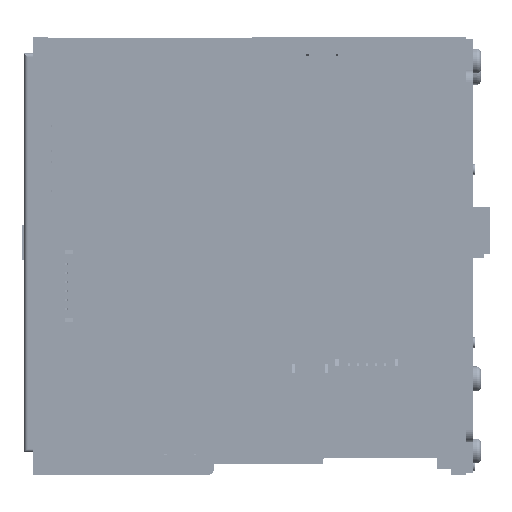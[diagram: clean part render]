
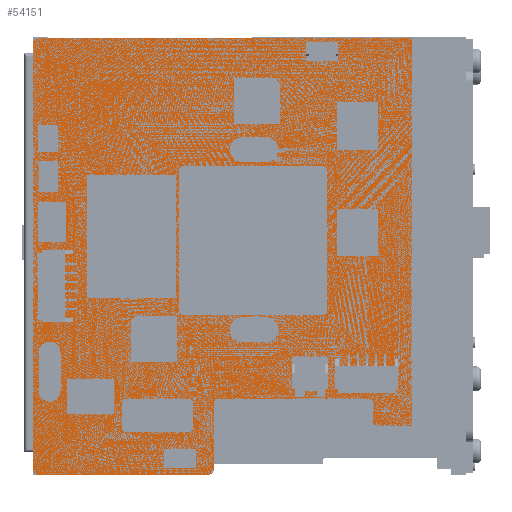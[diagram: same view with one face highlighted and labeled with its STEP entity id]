
A CAD part, left-side view. The second image highlights one B-rep face of the part: STEP entity #54151.
In plain terms, the highlighted planar face has unit normal (-1, 0, 0) as drawn and (0, 0, -1) by its records, which use the part's own axes.
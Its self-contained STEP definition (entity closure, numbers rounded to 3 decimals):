
#53536=DIRECTION('',(1.,0.,0.));
#53537=VECTOR('',#53536,31.);
#53538=CARTESIAN_POINT('',(-19.,-19.,0.));
#53539=LINE('',#53538,#53537);
#53540=DIRECTION('',(0.,-1.,0.));
#53541=VECTOR('',#53540,31.);
#53542=CARTESIAN_POINT('',(-20.,13.,0.));
#53543=LINE('',#53542,#53541);
#53544=DIRECTION('',(-1.,0.,0.));
#53545=VECTOR('',#53544,31.);
#53546=CARTESIAN_POINT('',(12.,14.,0.));
#53547=LINE('',#53546,#53545);
#53548=DIRECTION('',(0.,1.,0.));
#53549=VECTOR('',#53548,31.);
#53550=CARTESIAN_POINT('',(13.,-18.,0.));
#53551=LINE('',#53550,#53549);
#53552=DIRECTION('',(-1.,0.,0.));
#53553=VECTOR('',#53552,5.2);
#53554=CARTESIAN_POINT('',(37.85,10.72,0.));
#53555=LINE('',#53554,#53553);
#53556=DIRECTION('',(0.,1.,0.));
#53557=VECTOR('',#53556,13.915);
#53558=CARTESIAN_POINT('',(31.65,11.72,0.));
#53559=LINE('',#53558,#53557);
#53560=DIRECTION('',(1.,0.,0.));
#53561=VECTOR('',#53560,5.2);
#53562=CARTESIAN_POINT('',(32.65,26.635,0.));
#53563=LINE('',#53562,#53561);
#53564=DIRECTION('',(0.,-1.,0.));
#53565=VECTOR('',#53564,13.915);
#53566=CARTESIAN_POINT('',(38.85,25.635,0.));
#53567=LINE('',#53566,#53565);
#53568=CARTESIAN_POINT('',(47.4,45.25,0.));
#53569=DIRECTION('',(0.,0.,-1.));
#53570=DIRECTION('',(0.,1.,0.));
#53571=AXIS2_PLACEMENT_3D('',#53568,#53569,#53570);
#53573=DIRECTION('',(-1.,0.,0.));
#53574=VECTOR('',#53573,94.8);
#53575=CARTESIAN_POINT('',(47.4,46.25,0.));
#53576=LINE('',#53575,#53574);
#53577=CARTESIAN_POINT('',(-47.4,45.25,0.));
#53578=DIRECTION('',(0.,0.,-1.));
#53579=DIRECTION('',(-1.,0.,0.));
#53580=AXIS2_PLACEMENT_3D('',#53577,#53578,#53579);
#53582=DIRECTION('',(0.,-1.,0.));
#53583=VECTOR('',#53582,83.);
#53584=CARTESIAN_POINT('',(-48.4,45.25,0.));
#53585=LINE('',#53584,#53583);
#53586=DIRECTION('',(1.,0.,0.));
#53587=VECTOR('',#53586,9.75);
#53588=CARTESIAN_POINT('',(-48.4,-37.75,0.));
#53589=LINE('',#53588,#53587);
#53590=DIRECTION('',(0.,1.,0.));
#53591=VECTOR('',#53590,7.5);
#53592=CARTESIAN_POINT('',(-37.65,-46.25,0.));
#53593=LINE('',#53592,#53591);
#53594=DIRECTION('',(1.,0.,0.));
#53595=VECTOR('',#53594,75.3);
#53596=CARTESIAN_POINT('',(-37.65,-46.25,0.));
#53597=LINE('',#53596,#53595);
#53598=DIRECTION('',(-1.,0.,0.));
#53599=VECTOR('',#53598,5.);
#53600=CARTESIAN_POINT('',(37.65,-29.18,0.));
#53601=LINE('',#53600,#53599);
#53602=DIRECTION('',(0.,1.,0.));
#53603=VECTOR('',#53602,33.4);
#53604=CARTESIAN_POINT('',(31.65,-28.18,0.));
#53605=LINE('',#53604,#53603);
#53606=DIRECTION('',(-1.,0.,0.));
#53607=VECTOR('',#53606,14.75);
#53608=CARTESIAN_POINT('',(47.4,6.22,0.));
#53609=LINE('',#53608,#53607);
#53610=CARTESIAN_POINT('',(47.4,7.22,0.));
#53611=DIRECTION('',(0.,0.,-1.));
#53612=DIRECTION('',(1.,0.,0.));
#53613=AXIS2_PLACEMENT_3D('',#53610,#53611,#53612);
#53615=DIRECTION('',(0.,1.,0.));
#53616=VECTOR('',#53615,38.03);
#53617=CARTESIAN_POINT('',(48.4,7.22,0.));
#53618=LINE('',#53617,#53616);
#53632=CARTESIAN_POINT('',(-19.,-18.,0.));
#53633=DIRECTION('',(0.,0.,1.));
#53634=DIRECTION('',(-1.,0.,0.));
#53635=AXIS2_PLACEMENT_3D('',#53632,#53633,#53634);
#53733=CARTESIAN_POINT('',(-19.,13.,0.));
#53734=DIRECTION('',(0.,0.,1.));
#53735=DIRECTION('',(0.,1.,0.));
#53736=AXIS2_PLACEMENT_3D('',#53733,#53734,#53735);
#53751=CARTESIAN_POINT('',(12.,13.,0.));
#53752=DIRECTION('',(0.,0.,1.));
#53753=DIRECTION('',(1.,0.,0.));
#53754=AXIS2_PLACEMENT_3D('',#53751,#53752,#53753);
#53769=CARTESIAN_POINT('',(12.,-18.,0.));
#53770=DIRECTION('',(0.,0.,1.));
#53771=DIRECTION('',(0.,-1.,0.));
#53772=AXIS2_PLACEMENT_3D('',#53769,#53770,#53771);
#53782=CARTESIAN_POINT('',(32.65,11.72,0.));
#53783=DIRECTION('',(0.,0.,1.));
#53784=DIRECTION('',(-1.,0.,0.));
#53785=AXIS2_PLACEMENT_3D('',#53782,#53783,#53784);
#53800=CARTESIAN_POINT('',(37.85,11.72,0.));
#53801=DIRECTION('',(0.,0.,1.));
#53802=DIRECTION('',(0.,-1.,0.));
#53803=AXIS2_PLACEMENT_3D('',#53800,#53801,#53802);
#53818=CARTESIAN_POINT('',(37.85,25.635,0.));
#53819=DIRECTION('',(0.,0.,1.));
#53820=DIRECTION('',(1.,0.,0.));
#53821=AXIS2_PLACEMENT_3D('',#53818,#53819,#53820);
#53836=CARTESIAN_POINT('',(32.65,25.635,0.));
#53837=DIRECTION('',(0.,0.,1.));
#53838=DIRECTION('',(0.,1.,0.));
#53839=AXIS2_PLACEMENT_3D('',#53836,#53837,#53838);
#53862=CARTESIAN_POINT('',(32.65,5.22,0.));
#53863=DIRECTION('',(0.,0.,1.));
#53864=DIRECTION('',(0.,1.,0.));
#53865=AXIS2_PLACEMENT_3D('',#53862,#53863,#53864);
#53880=CARTESIAN_POINT('',(32.65,-28.18,0.));
#53881=DIRECTION('',(0.,0.,1.));
#53882=DIRECTION('',(-1.,0.,0.));
#53883=AXIS2_PLACEMENT_3D('',#53880,#53881,#53882);
#53898=DIRECTION('',(0.,-1.,0.));
#53899=VECTOR('',#53898,17.07);
#53900=CARTESIAN_POINT('',(37.65,-29.18,0.));
#53901=LINE('',#53900,#53899);
#53923=CARTESIAN_POINT('',(-38.65,-38.75,0.));
#53924=DIRECTION('',(0.,0.,1.));
#53925=DIRECTION('',(1.,0.,0.));
#53926=AXIS2_PLACEMENT_3D('',#53923,#53924,#53925);
#53948=CARTESIAN_POINT('',(-48.4,-37.75,0.));
#53950=VERTEX_POINT('',#53948);
#53952=CARTESIAN_POINT('',(-37.65,-46.25,0.));
#53954=VERTEX_POINT('',#53952);
#53956=CARTESIAN_POINT('',(37.65,-46.25,0.));
#53958=VERTEX_POINT('',#53956);
#53960=CARTESIAN_POINT('',(37.65,-29.18,0.));
#53962=VERTEX_POINT('',#53960);
#53965=CARTESIAN_POINT('',(-38.65,-37.75,0.));
#53967=VERTEX_POINT('',#53965);
#53969=CARTESIAN_POINT('',(-37.65,-38.75,0.));
#53971=VERTEX_POINT('',#53969);
#53973=CARTESIAN_POINT('',(-19.,-19.,0.));
#53975=VERTEX_POINT('',#53973);
#53977=CARTESIAN_POINT('',(-20.,-18.,0.));
#53979=VERTEX_POINT('',#53977);
#53981=CARTESIAN_POINT('',(-20.,13.,0.));
#53983=VERTEX_POINT('',#53981);
#53985=CARTESIAN_POINT('',(-19.,14.,0.));
#53987=VERTEX_POINT('',#53985);
#53989=CARTESIAN_POINT('',(13.,-18.,0.));
#53991=VERTEX_POINT('',#53989);
#53993=CARTESIAN_POINT('',(12.,-19.,0.));
#53995=VERTEX_POINT('',#53993);
#53997=CARTESIAN_POINT('',(12.,14.,0.));
#53999=VERTEX_POINT('',#53997);
#54001=CARTESIAN_POINT('',(13.,13.,0.));
#54003=VERTEX_POINT('',#54001);
#54004=CARTESIAN_POINT('',(31.65,-28.18,0.));
#54006=VERTEX_POINT('',#54004);
#54008=CARTESIAN_POINT('',(32.65,-29.18,0.));
#54010=VERTEX_POINT('',#54008);
#54012=CARTESIAN_POINT('',(32.65,6.22,0.));
#54014=VERTEX_POINT('',#54012);
#54016=CARTESIAN_POINT('',(31.65,5.22,0.));
#54018=VERTEX_POINT('',#54016);
#54020=CARTESIAN_POINT('',(31.65,11.72,0.));
#54022=VERTEX_POINT('',#54020);
#54024=CARTESIAN_POINT('',(32.65,10.72,0.));
#54026=VERTEX_POINT('',#54024);
#54028=CARTESIAN_POINT('',(37.85,10.72,0.));
#54030=VERTEX_POINT('',#54028);
#54032=CARTESIAN_POINT('',(38.85,11.72,0.));
#54034=VERTEX_POINT('',#54032);
#54036=CARTESIAN_POINT('',(32.65,26.635,0.));
#54038=VERTEX_POINT('',#54036);
#54040=CARTESIAN_POINT('',(31.65,25.635,0.));
#54042=VERTEX_POINT('',#54040);
#54044=CARTESIAN_POINT('',(38.85,25.635,0.));
#54046=VERTEX_POINT('',#54044);
#54048=CARTESIAN_POINT('',(37.85,26.635,0.));
#54050=VERTEX_POINT('',#54048);
#54052=CARTESIAN_POINT('',(47.4,46.25,0.));
#54053=CARTESIAN_POINT('',(48.4,45.25,0.));
#54054=VERTEX_POINT('',#54052);
#54055=VERTEX_POINT('',#54053);
#54060=CARTESIAN_POINT('',(48.4,7.22,0.));
#54061=CARTESIAN_POINT('',(47.4,6.22,0.));
#54062=VERTEX_POINT('',#54060);
#54063=VERTEX_POINT('',#54061);
#54068=CARTESIAN_POINT('',(-48.4,45.25,0.));
#54069=CARTESIAN_POINT('',(-47.4,46.25,0.));
#54070=VERTEX_POINT('',#54068);
#54071=VERTEX_POINT('',#54069);
#54076=CARTESIAN_POINT('',(0.,0.,0.));
#54077=DIRECTION('',(0.,0.,1.));
#54078=DIRECTION('',(1.,0.,0.));
#54079=AXIS2_PLACEMENT_3D('',#54076,#54077,#54078);
#54080=PLANE('',#54079);
#54082=ORIENTED_EDGE('',*,*,#54081,.F.);
#54084=ORIENTED_EDGE('',*,*,#54083,.T.);
#54086=ORIENTED_EDGE('',*,*,#54085,.F.);
#54088=ORIENTED_EDGE('',*,*,#54087,.T.);
#54090=ORIENTED_EDGE('',*,*,#54089,.T.);
#54092=ORIENTED_EDGE('',*,*,#54091,.F.);
#54094=ORIENTED_EDGE('',*,*,#54093,.F.);
#54096=ORIENTED_EDGE('',*,*,#54095,.T.);
#54098=ORIENTED_EDGE('',*,*,#54097,.F.);
#54100=ORIENTED_EDGE('',*,*,#54099,.T.);
#54102=ORIENTED_EDGE('',*,*,#54101,.F.);
#54104=ORIENTED_EDGE('',*,*,#54103,.T.);
#54106=ORIENTED_EDGE('',*,*,#54105,.F.);
#54108=ORIENTED_EDGE('',*,*,#54107,.F.);
#54110=ORIENTED_EDGE('',*,*,#54109,.F.);
#54112=ORIENTED_EDGE('',*,*,#54111,.T.);
#54113=EDGE_LOOP('',(#54082,#54084,#54086,#54088,#54090,#54092,#54094,#54096,
#54098,#54100,#54102,#54104,#54106,#54108,#54110,#54112));
#54114=FACE_OUTER_BOUND('',#54113,.F.);
#54116=ORIENTED_EDGE('',*,*,#54115,.T.);
#54118=ORIENTED_EDGE('',*,*,#54117,.F.);
#54120=ORIENTED_EDGE('',*,*,#54119,.T.);
#54122=ORIENTED_EDGE('',*,*,#54121,.F.);
#54124=ORIENTED_EDGE('',*,*,#54123,.T.);
#54126=ORIENTED_EDGE('',*,*,#54125,.F.);
#54128=ORIENTED_EDGE('',*,*,#54127,.T.);
#54130=ORIENTED_EDGE('',*,*,#54129,.F.);
#54131=EDGE_LOOP('',(#54116,#54118,#54120,#54122,#54124,#54126,#54128,#54130));
#54132=FACE_BOUND('',#54131,.F.);
#54134=ORIENTED_EDGE('',*,*,#54133,.F.);
#54136=ORIENTED_EDGE('',*,*,#54135,.F.);
#54138=ORIENTED_EDGE('',*,*,#54137,.F.);
#54140=ORIENTED_EDGE('',*,*,#54139,.F.);
#54142=ORIENTED_EDGE('',*,*,#54141,.F.);
#54144=ORIENTED_EDGE('',*,*,#54143,.F.);
#54146=ORIENTED_EDGE('',*,*,#54145,.F.);
#54148=ORIENTED_EDGE('',*,*,#54147,.F.);
#54149=EDGE_LOOP('',(#54134,#54136,#54138,#54140,#54142,#54144,#54146,#54148));
#54150=FACE_BOUND('',#54149,.F.);
#54151=ADVANCED_FACE('',(#54114,#54132,#54150),#54080,.F.);
#53572=CIRCLE('',#53571,1.);
#53581=CIRCLE('',#53580,1.);
#53614=CIRCLE('',#53613,1.);
#53636=CIRCLE('',#53635,1.);
#53737=CIRCLE('',#53736,1.);
#53755=CIRCLE('',#53754,1.);
#53773=CIRCLE('',#53772,1.);
#53786=CIRCLE('',#53785,1.);
#53804=CIRCLE('',#53803,1.);
#53822=CIRCLE('',#53821,1.);
#53840=CIRCLE('',#53839,1.);
#53866=CIRCLE('',#53865,1.);
#53884=CIRCLE('',#53883,1.);
#53927=CIRCLE('',#53926,1.);
#54081=EDGE_CURVE('',#54054,#54055,#53572,.T.);
#54083=EDGE_CURVE('',#54054,#54071,#53576,.T.);
#54085=EDGE_CURVE('',#54070,#54071,#53581,.T.);
#54087=EDGE_CURVE('',#54070,#53950,#53585,.T.);
#54089=EDGE_CURVE('',#53950,#53967,#53589,.T.);
#54091=EDGE_CURVE('',#53971,#53967,#53927,.T.);
#54093=EDGE_CURVE('',#53954,#53971,#53593,.T.);
#54095=EDGE_CURVE('',#53954,#53958,#53597,.T.);
#54097=EDGE_CURVE('',#53962,#53958,#53901,.T.);
#54099=EDGE_CURVE('',#53962,#54010,#53601,.T.);
#54101=EDGE_CURVE('',#54006,#54010,#53884,.T.);
#54103=EDGE_CURVE('',#54006,#54018,#53605,.T.);
#54105=EDGE_CURVE('',#54014,#54018,#53866,.T.);
#54107=EDGE_CURVE('',#54063,#54014,#53609,.T.);
#54109=EDGE_CURVE('',#54062,#54063,#53614,.T.);
#54111=EDGE_CURVE('',#54062,#54055,#53618,.T.);
#54115=EDGE_CURVE('',#54030,#54026,#53555,.T.);
#54117=EDGE_CURVE('',#54022,#54026,#53786,.T.);
#54119=EDGE_CURVE('',#54022,#54042,#53559,.T.);
#54121=EDGE_CURVE('',#54038,#54042,#53840,.T.);
#54123=EDGE_CURVE('',#54038,#54050,#53563,.T.);
#54125=EDGE_CURVE('',#54046,#54050,#53822,.T.);
#54127=EDGE_CURVE('',#54046,#54034,#53567,.T.);
#54129=EDGE_CURVE('',#54030,#54034,#53804,.T.);
#54133=EDGE_CURVE('',#53975,#53995,#53539,.T.);
#54135=EDGE_CURVE('',#53979,#53975,#53636,.T.);
#54137=EDGE_CURVE('',#53983,#53979,#53543,.T.);
#54139=EDGE_CURVE('',#53987,#53983,#53737,.T.);
#54141=EDGE_CURVE('',#53999,#53987,#53547,.T.);
#54143=EDGE_CURVE('',#54003,#53999,#53755,.T.);
#54145=EDGE_CURVE('',#53991,#54003,#53551,.T.);
#54147=EDGE_CURVE('',#53995,#53991,#53773,.T.);
